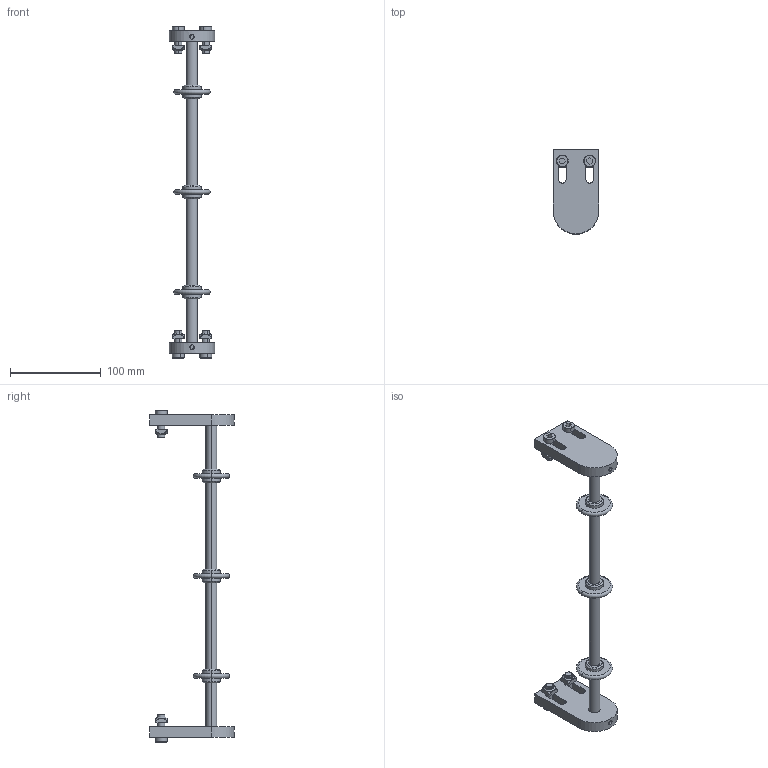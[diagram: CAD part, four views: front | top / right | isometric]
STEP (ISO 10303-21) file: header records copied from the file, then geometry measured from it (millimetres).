
FILE_DESCRIPTION (( 'STEP AP203' ), '1' );
FILE_NAME ('084.050.KSW.300.STEP', '2019-07-30T06:56:01', ( '' ), ( '' ), 'SwSTEP 2.0', 'SolidWorks 2018', '' );
FILE_SCHEMA (( 'CONFIG_CONTROL_DESIGN' ));
Length unit declared in the file: millimetre
Products named in the file (7): 084.302.000 DADI ALUSIC 13x13-1_084.302.004; Parte359^084.050.KSW.300; GRANI A PUNTA PIATTA UNI 5923_M6x16 UNI 5923; 084.802.030; 084.050.KSW.300; 084.802.041; 084.301.000 VITI ALUSIC_084.301.004
Assembly tree (16 placements, depth 2):
  084.050.KSW.300
    Parte359^084.050.KSW.300
    084.802.041  x3
    084.802.030  x2
    GRANI A PUNTA PIATTA UNI 5923_M6x16 UNI 5923  x2
    084.301.000 VITI ALUSIC_084.301.004  x4
    084.302.000 DADI ALUSIC 13x13-1_084.302.004  x4
Bounding box: 50 x 92.5 x 365 mm (x, y, z)
Volume: 162550.4 mm3; surface area: 59044.9 mm2
Topology: 16 solids, 16 shells, 288 faces, 670 edges, 432 vertices
Faces by surface type: plane 116, cylinder 82, torus 38, cone 36, bspline 16
Entity records: 4225 total; most frequent: CARTESIAN_POINT 993, DIRECTION 488, ORIENTED_EDGE 440, EDGE_CURVE 220, AXIS2_PLACEMENT_3D 191, VERTEX_POINT 142, EDGE_LOOP 112, VECTOR 106
